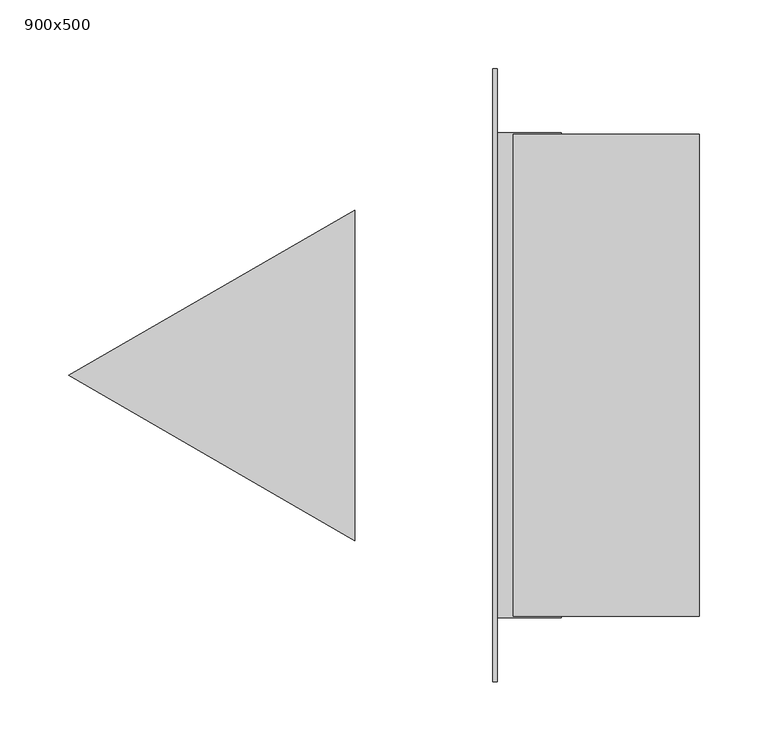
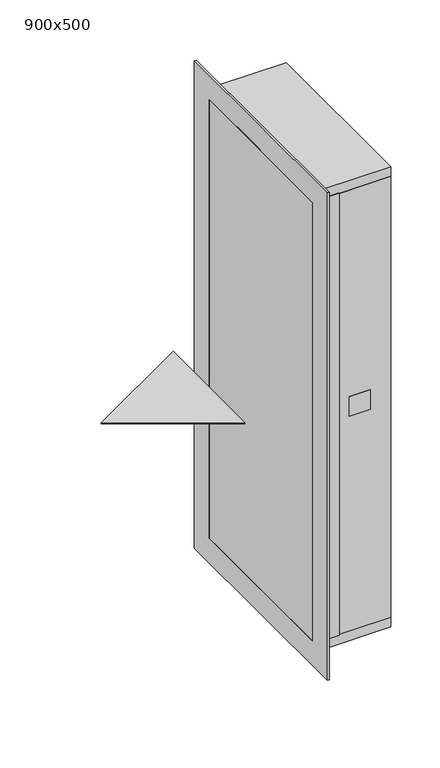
"""IFC4 building model written with IfcOpenShell, lengths in millimetres: air terminal geometry, Клапан ОЗК прямоугольный стеновой НЗ : 900x500."""

from ifc_helpers import new_model, si_unit, point, frame, frame_2d, origin, place, context, project, spatial, polyline, circle_curve, trimmed, segment, composite_curve, outline, extrude, faceted_brep, source, transform, mapped, element, save


def air_terminal_900x500_b4c928ea(model_context):
    return source(origin(), model_context, "Body", "SolidModel", [
        extrude(outline(polyline([(-175.0, 120.0), (-175.0, 0.0), (-175.0, -120.0), (-382.8460969, 0.0), (-175.0, 120.0)])), frame((0.0, 0.0, -1.0), z_axis=(0.0, 0.0, 1.0), x_axis=(1.0, 0.0, 0.0)), (0.0, 0.0, 1.0), 2.0),
        extrude(outline(composite_curve([segment(trimmed(circle_curve(frame_2d((8.3674271, 15.0)), 6.0), [point((8.3674271, 9.0))], [point((8.3674271, 21.0))], False, "CARTESIAN"), True, "CONTINUOUS"), segment(trimmed(circle_curve(frame_2d((8.3674271, 15.0)), 6.0), [point((8.3674271, 21.0))], [point((8.3674271, 9.0))], False, "CARTESIAN"), True, "CONTINUOUS")], self_intersect=False)), frame((0.0, -80.0, 0.0), z_axis=(0.0, 1.0, 0.0), x_axis=(0.0, 0.0, 1.0)), (0.0, 0.0, 1.0), 100.0),
        extrude(outline(polyline([(34.330127, -115.5354596), (34.330127, -120.5354596), (30.0, -123.0354596), (25.669873, -120.5354596), (25.669873, -115.5354596), (30.0, -113.0354596), (34.330127, -115.5354596)])), frame((0.0, 0.0, -160.0), z_axis=(0.0, 0.0, 1.0), x_axis=(1.0, 0.0, 0.0)), (0.0, 0.0, 1.0), 20.0),
        extrude(outline(polyline([(-4.330127, -115.5354596), (0.0, -113.0354596), (4.330127, -115.5354596), (4.330127, -120.5354596), (0.0, -123.0354596), (-4.330127, -120.5354596), (-4.330127, -115.5354596)])), frame((0.0, 0.0, -160.0), z_axis=(0.0, 0.0, 1.0), x_axis=(1.0, 0.0, 0.0)), (0.0, 0.0, 1.0), 20.0),
        extrude(outline(polyline([(35.0, -175.0), (-5.0, -175.0), (-5.0, -155.0), (35.0, -155.0), (35.0, -175.0)])), frame((0.0, 0.0, -11.6325729), z_axis=(0.0, 0.0, 1.0), x_axis=(1.0, 0.0, 0.0)), (0.0, 0.0, 1.0), 40.0),
        extrude(outline(composite_curve([segment(polyline([(40.0, 40.0), (40.0, -10.0)]), True, "CONTINUOUS"), segment(trimmed(circle_curve(frame_2d((25.0, -10.0)), 15.0), [point((40.0, -10.0))], [point((25.0, -25.0))], False, "CARTESIAN"), True, "CONTINUOUS"), segment(polyline([(25.0, -25.0), (-125.0, -25.0)]), True, "CONTINUOUS"), segment(trimmed(circle_curve(frame_2d((-125.0, -10.0)), 15.0), [point((-125.0, -25.0))], [point((-140.0, -10.0))], False, "CARTESIAN"), True, "CONTINUOUS"), segment(polyline([(-140.0, -10.0), (-140.0, 40.0)]), True, "CONTINUOUS"), segment(trimmed(circle_curve(frame_2d((-125.0, 40.0)), 15.0), [point((-140.0, 40.0))], [point((-125.0, 55.0))], False, "CARTESIAN"), True, "CONTINUOUS"), segment(polyline([(-125.0, 55.0), (25.0, 55.0)]), True, "CONTINUOUS"), segment(trimmed(circle_curve(frame_2d((25.0, 40.0)), 15.0), [point((25.0, 55.0))], [point((40.0, 40.0))], False, "CARTESIAN"), True, "CONTINUOUS")], self_intersect=False)), frame((0.0, -155.0, 0.0), z_axis=(0.0, 1.0, 0.0), x_axis=(0.0, 0.0, 1.0)), (0.0, 0.0, 1.0), 75.0),
        faceted_brep([(-75.0, -172.6138858, 447.6138858), (-25.0, -172.6138858, 447.6138858), (-25.0, -172.6138858, -447.6138858), (-75.0, -172.6138858, -447.6138858), (-71.5502892, -222.6138858, 497.6138858), (-75.0, -222.6138858, 497.6138858), (-75.0, -222.6138858, -497.6138858), (-71.5502892, -222.6138858, -497.6138858), (-25.0, -176.0635966, 451.0635966), (-71.5502892, -176.0635966, 451.0635966), (-71.5502892, -176.0635966, -451.0635966), (-25.0, -176.0635966, -451.0635966), (-25.0, 172.6138858, -447.6138858), (-75.0, 172.6138858, -447.6138858), (-75.0, 222.6138858, -497.6138858), (-71.5502892, 222.6138858, -497.6138858), (-71.5502892, 176.0635966, -451.0635966), (-25.0, 176.0635966, -451.0635966), (-25.0, 172.6138858, 447.6138858), (-75.0, 172.6138858, 447.6138858), (-75.0, 222.6138858, 497.6138858), (-71.5502892, 222.6138858, 497.6138858), (-71.5502892, 176.0635966, 451.0635966), (-25.0, 176.0635966, 451.0635966)], [[[0, 1, 2, 3]], [[4, 5, 6, 7]], [[8, 9, 10, 11]], [[3, 2, 12, 13]], [[7, 6, 14, 15]], [[11, 10, 16, 17]], [[13, 12, 18, 19]], [[15, 14, 20, 21]], [[17, 16, 22, 23]], [[19, 18, 1, 0]], [[5, 20, 14, 6], [3, 13, 19, 0]], [[21, 20, 5, 4]], [[7, 15, 21, 4], [9, 22, 16, 10]], [[23, 22, 9, 8]], [[11, 17, 23, 8], [1, 18, 12, 2]]]),
        extrude(outline(polyline([(75.0, 175.0), (75.0, -175.0), (-75.0, -175.0), (-75.0, 175.0), (75.0, 175.0)])), frame((0.0, 0.0, -450.0), z_axis=(0.0, 0.0, 1.0), x_axis=(1.0, 0.0, 0.0)), (0.0, 0.0, 1.0), 900.0),
        extrude(outline(polyline([(-60.0, -175.0), (-60.0, 175.0), (75.0, 175.0), (75.0, -175.0), (-60.0, -175.0)])), frame((0.0, 0.0, -470.0), z_axis=(0.0, 0.0, 1.0), x_axis=(1.0, 0.0, 0.0)), (0.0, 0.0, 1.0), 20.0),
        extrude(outline(polyline([(-60.0, -175.0), (-60.0, 175.0), (75.0, 175.0), (75.0, -175.0), (-60.0, -175.0)])), frame((0.0, 0.0, 450.0), z_axis=(0.0, 0.0, 1.0), x_axis=(1.0, 0.0, 0.0)), (0.0, 0.0, 1.0), 20.0),
    ])


if __name__ == "__main__":
    model = new_model("IFC4")
    model_context = context("Model", 3, world=origin())
    ifc_project = project(units=[si_unit("LENGTHUNIT", "METRE", prefix="MILLI")], contexts=[model_context])
    site = spatial("IfcSite", under=ifc_project)
    building = spatial("IfcBuilding", under=site)
    placement = place(None, origin())
    air_terminal_900x500_shape = air_terminal_900x500_b4c928ea(model_context)
    element("IfcAirTerminal", 1, ObjectType="Клапан ОЗК прямоугольный стеновой НЗ : 900x500", at=placement, inside=building, context=model_context, shape_type="MappedRepresentation", body=[
        mapped(air_terminal_900x500_shape, transform((0.0, 0.0, 0.0), x_axis=(1.0, 0.0, 0.0), y_axis=(0.0, 1.0, 0.0), z_axis=(0.0, 0.0, 1.0))),
    ])
    save(model, "model.ifc")
